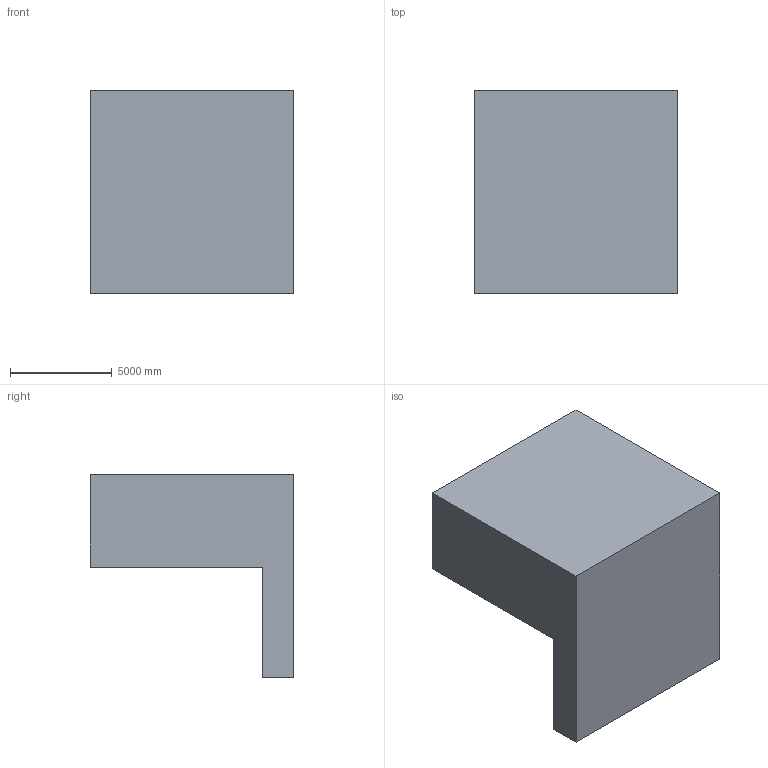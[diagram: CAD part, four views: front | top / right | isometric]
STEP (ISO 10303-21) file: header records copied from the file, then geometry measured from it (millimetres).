
FILE_DESCRIPTION (( 'STEP AP203' ), '1' );
FILE_NAME ('101.STEP', '2022-09-05T15:31:58', ( 'user' ), ( '' ), 'SwSTEP 2.0', 'SolidWorks 2021', '' );
FILE_SCHEMA (( 'CONFIG_CONTROL_DESIGN' ));
Length unit declared in the file: centimetre
Products named in the file (1): 101
Bounding box: 10000 x 10000 x 10000 mm (x, y, z)
Volume: 538703552346.3 mm3; surface area: 509274766.3 mm2
Topology: 1 solids, 1 shells, 11 faces, 27 edges, 18 vertices
Faces by surface type: plane 11
Entity records: 398 total; most frequent: CARTESIAN_POINT 57, ORIENTED_EDGE 54, DIRECTION 51, LINE 27, EDGE_CURVE 27, VECTOR 27, VERTEX_POINT 18, AXIS2_PLACEMENT_3D 12
